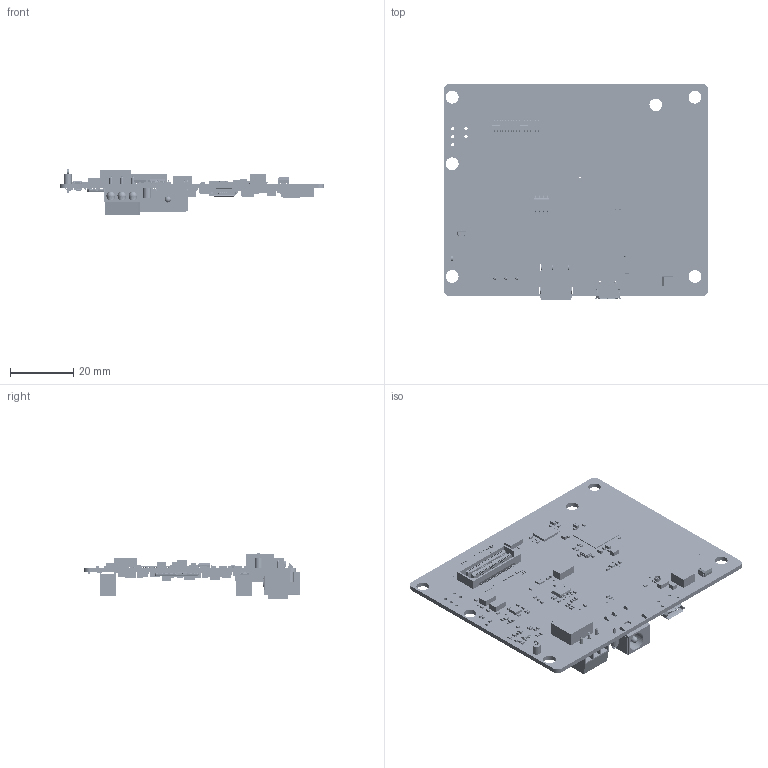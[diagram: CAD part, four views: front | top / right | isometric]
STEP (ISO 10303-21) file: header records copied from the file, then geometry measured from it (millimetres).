
FILE_DESCRIPTION(('Open CASCADE Model'),'2;1');
FILE_NAME('Open CASCADE Shape Model','2025-12-22T13:04:26',('Author'),( 'Open CASCADE'),'Open CASCADE STEP processor 7.5','Open CASCADE 7.5' ,'Unknown');
FILE_SCHEMA(('AUTOMOTIVE_DESIGN { 1 0 10303 214 1 1 1 1 }'));
Length unit declared in the file: millimetre
Products named in the file (644): PCB; Board; Open CASCADE STEP translator 7.5 1.1.1; C105; 6686170688; Extruded; 6686170528; C102; 6646382416; 6646382256; C100; C99; C80; C55; 6686501088; 6686500928; C40; C37; 6685763424; 6685763264; C19; C22; 6646382016; 6646381856; R47; C31; 6686161008; 6686160848; C30; R158; 6646381216; 6646381056; U2; ABL0161B; BODY; SUBSTRATE-BGA; SOLDER_BALL; PIN1_AREA; SMASK-BTM-BGA; TP1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
Assembly tree (1760 placements, depth 6):
  PCB
    Board
      Open CASCADE STEP translator 7.5 1.1.1
    C105
      6686170688  x2
        Extruded
      6686170528
        Extruded
    C102
      6646382416  x2
        Extruded
      6646382256
        Extruded
    C100
      6646382416  x2
        Extruded
      6646382256
        Extruded
    C99
      6686170688  x2
        Extruded
      6686170528
        Extruded
    C80
      6646382416  x2
        Extruded
      6646382256
        Extruded
    C55
      6686501088  x2
        Extruded
      6686500928
        Extruded
    C40
      6646382416  x2
        Extruded
      6646382256
        Extruded
    C37
      6685763424  x2
        Extruded
      6685763264
        Extruded
    C19
      6686170688  x2
        Extruded
      6686170528
        Extruded
    C22
      6646382016  x2
        Extruded
      6646381856
        Extruded
    R47
      6646382016  x2
        Extruded
      6646381856
        Extruded
    C31
      6686161008  x2
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Bounding box: 83.92 x 68.54 x 14.47 mm (x, y, z)
Volume: 12526.5 mm3; surface area: 24836.6 mm2
Topology: 1342 solids, 1342 shells, 13458 faces, 33085 edges, 21795 vertices
Faces by surface type: plane 11396, cylinder 1675, sphere 374, cone 6, revolution 4, torus 2, bspline 1
Full cylindrical faces by diameter (mm): 0.4 x1, 0.45 x1, 0.5 x2, 0.85 x2, 0.9 x3, 1.016 x4, 1.02 x5, 1.2 x3, 1.8 x1, 2 x4, 2.5 x2, 3 x6, 4 x1, 4.064 x5
Entity records: 213271 total; most frequent: CARTESIAN_POINT 33710, DIRECTION 32020, ORIENTED_EDGE 31032, EDGE_CURVE 15516, LINE 13362, VECTOR 13362, VERTEX_POINT 10269, AXIS2_PLACEMENT_3D 9327
